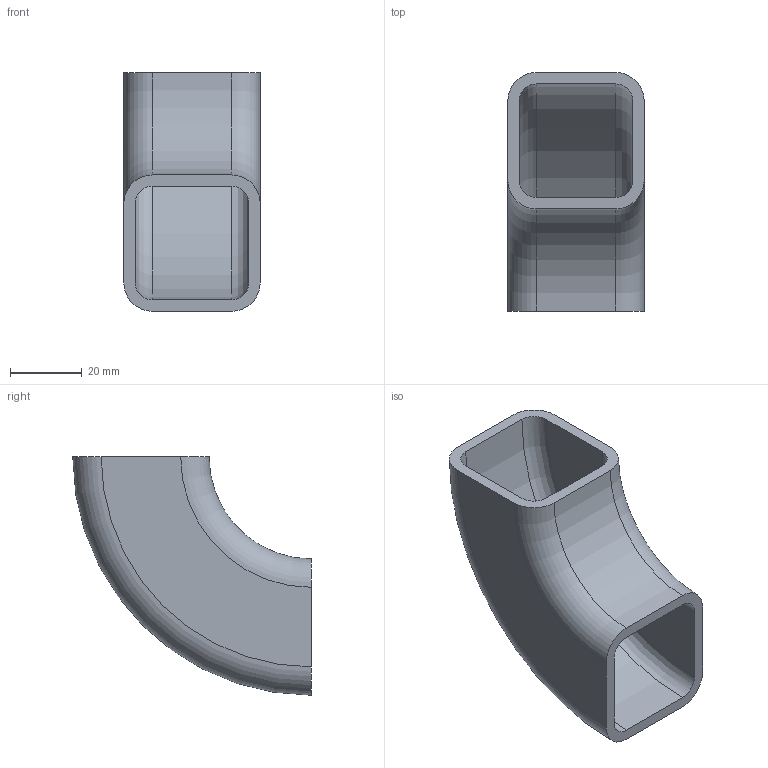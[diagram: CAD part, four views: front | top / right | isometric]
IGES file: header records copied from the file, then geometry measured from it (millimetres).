
Global section: file name: No Iges File Name specified; native system: Autodesk Inventor 2011; preprocessor: AutoDesk Inventor Iges Exporter R2011; author: bamfomg; date: 20110321.073104; units: inch
Bounding box: 38.1 x 66.67 x 66.67 mm (x, y, z)
Volume: 30592 mm3; surface area: 20088.4 mm2
Topology: 1 solids, 1 shells, 18 faces, 48 edges, 32 vertices
Faces by surface type: revolution 6, plane 6, torus 4, cylinder 2
